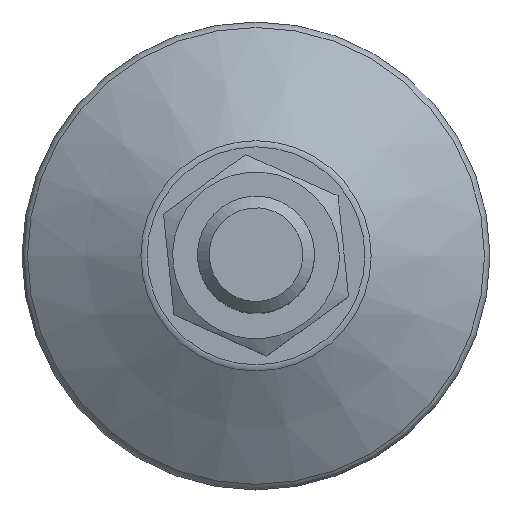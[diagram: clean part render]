
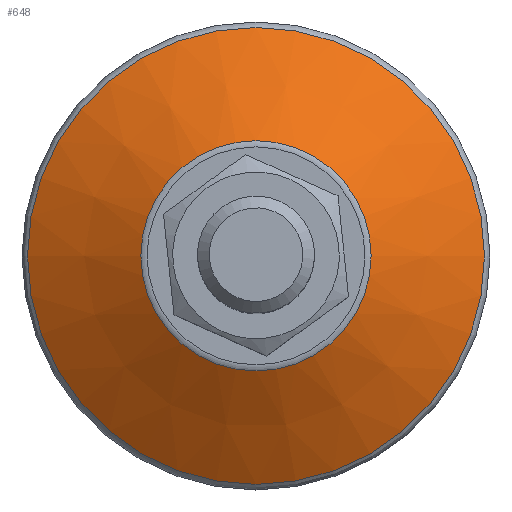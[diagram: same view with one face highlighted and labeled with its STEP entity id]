
A CAD part, top view. The second image highlights one B-rep face of the part: STEP entity #648.
In plain terms, the highlighted conical face has half-angle 58 degrees and reference radius 29.371 mm.
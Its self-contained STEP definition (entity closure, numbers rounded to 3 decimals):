
#648=ADVANCED_FACE('',(#2299,#2301),#2303,.T.);
#2299=FACE_BOUND('',#2300,.T.);
#2300=EDGE_LOOP('',(#3549,#3550));
#2301=FACE_BOUND('',#2302,.T.);
#2302=EDGE_LOOP('',(#3551,#3552));
#2303=CONICAL_SURFACE('',#2304,29.371,1.012);
#2304=AXIS2_PLACEMENT_3D('',#2305,#2306,#2307);
#2305=CARTESIAN_POINT('',(0.,0.,11.642));
#2306=DIRECTION('',(0.,0.,-1.));
#2307=DIRECTION('',(1.,0.,0.));
#3549=ORIENTED_EDGE('',*,*,#4343,.T.);
#3550=ORIENTED_EDGE('',*,*,#4344,.T.);
#3551=ORIENTED_EDGE('',*,*,#4342,.F.);
#3552=ORIENTED_EDGE('',*,*,#4341,.F.);
#4341=EDGE_CURVE('',#4852,#4853,#4854,.T.);
#4342=EDGE_CURVE('',#4853,#4852,#4855,.T.);
#4343=EDGE_CURVE('',#4856,#4857,#4858,.T.);
#4344=EDGE_CURVE('',#4857,#4856,#4859,.T.);
#4852=VERTEX_POINT('',#6668);
#4853=VERTEX_POINT('',#6669);
#4854=CIRCLE('',#6670,19.682);
#4855=CIRCLE('',#6674,19.682);
#4856=VERTEX_POINT('',#6678);
#4857=VERTEX_POINT('',#6679);
#4858=CIRCLE('',#6680,39.06);
#4859=CIRCLE('',#6684,39.06);
#6668=CARTESIAN_POINT('',(19.682,0.,17.696));
#6669=CARTESIAN_POINT('',(-19.682,0.,17.696));
#6670=AXIS2_PLACEMENT_3D('',#6671,#6672,#6673);
#6671=CARTESIAN_POINT('',(0.,0.,17.696));
#6672=DIRECTION('',(0.,0.,1.));
#6673=DIRECTION('',(1.,0.,0.));
#6674=AXIS2_PLACEMENT_3D('',#6675,#6676,#6677);
#6675=CARTESIAN_POINT('',(0.,0.,17.696));
#6676=DIRECTION('',(0.,0.,1.));
#6677=DIRECTION('',(-1.,0.,0.));
#6678=CARTESIAN_POINT('',(39.06,0.,5.587));
#6679=CARTESIAN_POINT('',(-39.06,0.,5.587));
#6680=AXIS2_PLACEMENT_3D('',#6681,#6682,#6683);
#6681=CARTESIAN_POINT('',(0.,0.,5.587));
#6682=DIRECTION('',(0.,0.,1.));
#6683=DIRECTION('',(1.,0.,0.));
#6684=AXIS2_PLACEMENT_3D('',#6685,#6686,#6687);
#6685=CARTESIAN_POINT('',(0.,0.,5.587));
#6686=DIRECTION('',(0.,0.,1.));
#6687=DIRECTION('',(-1.,0.,0.));
